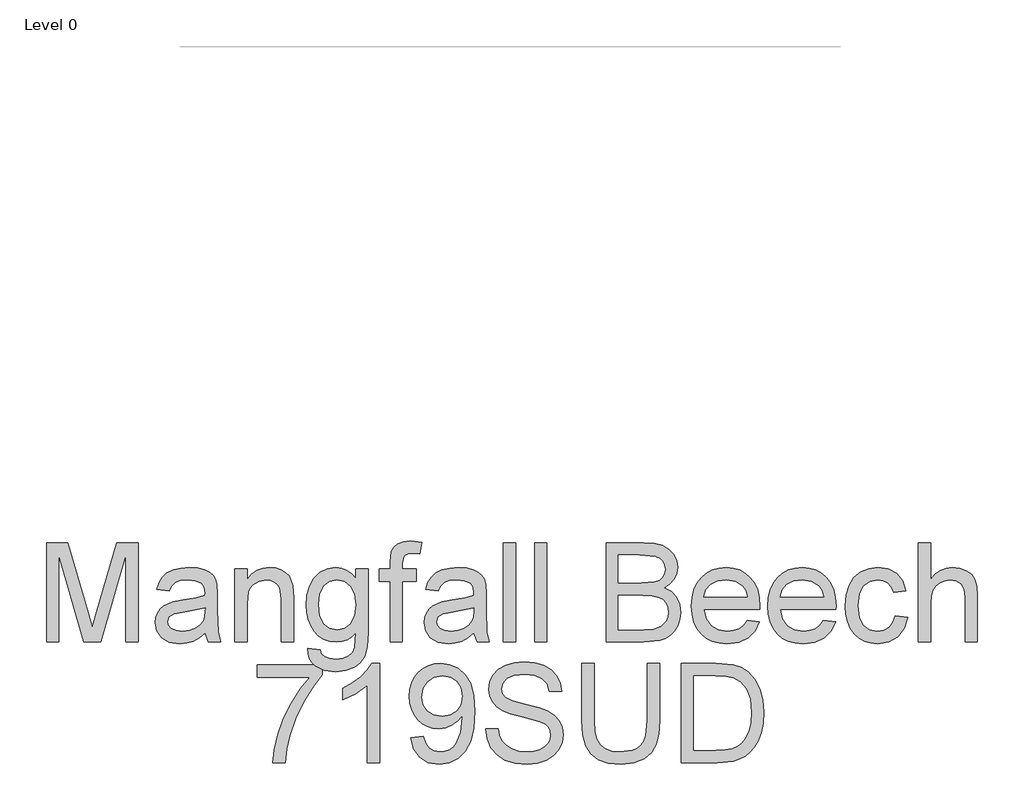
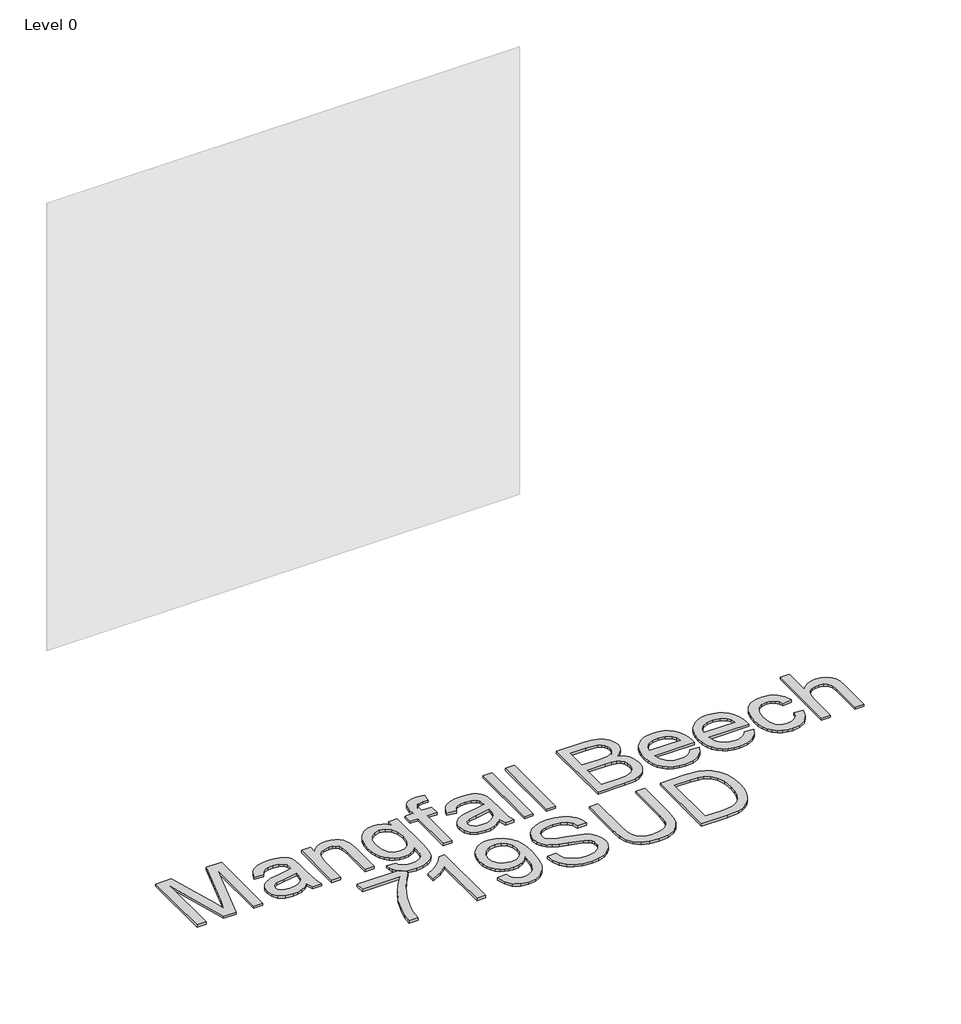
# One storey, part 12 of 43: 1 proxy.
"""IFC4 building model written with IfcOpenShell, lengths in millimetres."""

from ifc_helpers import new_model, si_unit, origin, origin_with_axes, place, context, project, spatial, polyline, outline, extrude, element, save

model = new_model("IFC4")

# Units and contexts
model_context = context("Model", 3, world=origin())
ifc_project = project(units=[si_unit("LENGTHUNIT", "METRE", prefix="MILLI")], contexts=[model_context])

# Site, building, storey
site = spatial("IfcSite", under=ifc_project)
building = spatial("IfcBuilding", under=site)
storey = spatial("IfcBuildingStorey", under=building, Name="Level 0", Elevation=0.0)

# Proxy
placement = place(None, origin())
element("IfcBuildingElementProxy", 1, Name="300mm Arial", ObjectType="300mm Arial", at=placement, inside=storey, context=model_context, shape_type="SweptSolid", body=[
    extrude(outline(polyline([(-5856.2615835, -12003.860494), (-5856.2615835, -11702.4915635), (-5791.4407759, -11702.4915635), (-5729.7837535, -11914.9066275), (-5717.3493421, -11959.2731962), (-5703.8848611, -11911.2278076), (-5643.2579083, -11702.4915635), (-5578.4371007, -11702.4915635), (-5578.4371007, -12003.860494), (-5616.108217, -12003.860494), (-5616.108217, -11740.1626798), (-5691.8183316, -12003.860494), (-5742.8803526, -12003.860494), (-5818.5904672, -11740.1626798), (-5818.5904672, -12003.860494), (-5856.2615835, -12003.860494)])), origin_with_axes(), (0.0, 0.0, 1.0), 10.0),
    extrude(outline(polyline([(-5375.9548506, -11975.6071568), (-5393.9534772, -11991.0398064), (-5412.4855327, -12001.1381672), (-5431.9740814, -12006.7115794), (-5452.8421876, -12008.5693835), (-5484.3236893, -12004.0996173), (-5507.5462403, -11990.6903186), (-5521.8660469, -11970.3280501), (-5526.6393158, -11944.9993748), (-5524.836694, -11929.3827841), (-5519.4288287, -11915.2009331), (-5511.0871045, -11903.0608273), (-5500.4829059, -11893.5694718), (-5474.1057669, -11881.2086368), (-5441.5114221, -11875.5432541), (-5402.9941772, -11869.5835657), (-5376.1755798, -11862.5938078), (-5375.9548506, -11854.2060983), (-5378.5484186, -11837.3938912), (-5386.3291228, -11826.3942195), (-5403.7299412, -11818.2272392), (-5427.9733647, -11815.5049125), (-5450.4141664, -11817.3167313), (-5466.0859394, -11822.7521878), (-5476.7729114, -11832.8045633), (-5484.25931, -11848.4671392), (-5521.9304263, -11843.7582497), (-5515.3913238, -11823.156858), (-5505.6332539, -11806.9700502), (-5491.7457086, -11794.590821), (-5472.8181799, -11785.4121652), (-5449.6692054, -11779.7283884), (-5423.1173224, -11777.8337961), (-5397.6506912, -11779.5076592), (-5377.4631668, -11784.5292485), (-5362.2420492, -11792.0800264), (-5351.6746389, -11801.3414556), (-5344.6664869, -11812.7917827), (-5340.1231442, -11826.9092543), (-5338.2837343, -11859.8714811), (-5338.2837343, -11906.7396473), (-5336.3707479, -11972.1858542), (-5328.8659552, -12003.860494), (-5366.5370715, -12003.860494), (-5375.9548506, -11975.6071568)]), holes=[polyline([(-5375.9548506, -11900.2649241), (-5436.7289562, -11911.8164188), (-5469.13936, -11917.9232599), (-5483.8178516, -11927.8560738), (-5488.9681995, -11942.3506244), (-5486.1630993, -11953.5526311), (-5477.7477986, -11962.7312869), (-5463.9062386, -11968.8565221), (-5444.8223601, -11970.8982672), (-5424.5888503, -11968.64499), (-5406.7097854, -11961.8851583), (-5392.2152348, -11951.9247533), (-5382.1352681, -11940.069756), (-5377.6655019, -11927.8560738), (-5376.1755798, -11910.933502), (-5375.9548506, -11900.2649241)])]), origin_with_axes(), (0.0, 0.0, 1.0), 10.0),
    extrude(outline(polyline([(-5286.4859493, -12003.860494), (-5286.4859493, -11782.5426857), (-5248.814833, -11782.5426857), (-5248.814833, -11813.4447733), (-5235.7274311, -11797.8649708), (-5220.0096728, -11786.7365404), (-5201.6615583, -11780.0594822), (-5180.6830875, -11777.8337961), (-5162.1142438, -11779.6272209), (-5145.1088986, -11785.0074951), (-5130.9270477, -11793.303234), (-5120.8286869, -11803.8430532), (-5109.5347097, -11831.5445674), (-5107.5481469, -11867.964885), (-5107.5481469, -12003.860494), (-5145.2192632, -12003.860494), (-5145.2192632, -11873.0416565), (-5149.5602707, -11839.7115477), (-5155.5659443, -11829.7879309), (-5164.9009499, -11822.0900002), (-5176.8663118, -11817.1511844), (-5190.7630542, -11815.5049125), (-5212.8267769, -11819.2021265), (-5231.6347439, -11830.2937687), (-5239.1510329, -11839.3482643), (-5244.5198107, -11851.7228949), (-5248.814833, -11886.4325611), (-5248.814833, -12003.860494), (-5286.4859493, -12003.860494)])), origin_with_axes(), (0.0, 0.0, 1.0), 10.0),
    extrude(outline(polyline([(-5065.1681411, -12022.6960521), (-5027.4970247, -12027.4049417), (-5023.3399582, -12039.1771655), (-5015.2833425, -12047.2705694), (-4999.4460226, -12053.5613515), (-4978.7158722, -12055.6582789), (-4956.6061643, -12053.28544), (-4940.1618391, -12046.1669234), (-4928.7574972, -12034.7625816), (-4921.7677393, -12019.532267), (-4919.1925654, -11975.6071568), (-4931.7281444, -11987.9679918), (-4945.7168572, -11996.7971597), (-4961.158704, -12002.0946604), (-4978.0536846, -12003.860494), (-4998.7079594, -12001.8049533), (-5016.8928262, -11995.6383314), (-5032.6082852, -11985.3606281), (-5045.8543363, -11970.9718436), (-5056.3642651, -11953.708981), (-5063.871357, -11934.8090435), (-5068.3756122, -11914.2720311), (-5069.8770306, -11892.0979438), (-5067.182295, -11861.6832999), (-5059.0980881, -11833.7150712), (-5045.9095186, -11810.0142737), (-5027.9016949, -11792.4019232), (-5005.6908195, -11781.4758279), (-4979.8930946, -11777.8337961), (-4962.2761455, -11779.8939353), (-4946.2870743, -11786.0743528), (-4931.9258809, -11796.3750487), (-4919.1925654, -11810.7960229), (-4919.1925654, -11782.5426857), (-4881.5214491, -11782.5426857), (-4881.5214491, -11973.620594), (-4884.096623, -12017.7388422), (-4891.8221449, -12046.7923228), (-4905.1302761, -12066.0601423), (-4924.4532779, -12080.8214074), (-4949.368086, -12090.2023982), (-4979.4516362, -12093.3293952), (-5014.5015933, -12088.9240083), (-5042.10194, -12075.7078476), (-5052.4969056, -12065.7865301), (-5059.806261, -12053.644125), (-5064.0300061, -12039.2806323), (-5065.1681411, -12022.6960521)]), holes=[polyline([(-5032.2059143, -11889.5227699), (-5028.1868035, -11924.0760863), (-5016.1294711, -11947.8320661), (-4998.0020858, -11961.6000498), (-4975.7728162, -11966.1893777), (-4953.7090936, -11961.6276409), (-4935.4897378, -11947.9424307), (-4923.2668585, -11924.4899535), (-4919.1925654, -11890.6264159), (-4923.3864201, -11857.9676917), (-4935.9679843, -11834.4508352), (-4954.4540546, -11820.2413931), (-4976.3614274, -11815.5049125), (-4997.8733271, -11820.1678167), (-5015.9087419, -11834.1565296), (-5028.1316212, -11857.3238983), (-5032.2059143, -11889.5227699)])]), origin_with_axes(), (0.0, 0.0, 1.0), 10.0),
    extrude(outline(polyline([(-4815.5969955, -12003.860494), (-4815.5969955, -11820.213802), (-4848.5592223, -11820.213802), (-4848.5592223, -11782.5426857), (-4815.5969955, -11782.5426857), (-4815.5969955, -11760.2490368), (-4811.62387, -11728.8319144), (-4804.0455009, -11716.3055325), (-4792.3468534, -11706.3911127), (-4775.9761046, -11699.9347837), (-4754.3814315, -11697.782674), (-4720.0212532, -11701.9029523), (-4725.5394831, -11737.2196239), (-4747.2445208, -11735.4537903), (-4761.5643275, -11737.0172888), (-4770.9729095, -11741.7077842), (-4776.1876368, -11750.6657108), (-4777.9258792, -11765.0315027), (-4777.9258792, -11782.5426857), (-4735.5458734, -11782.5426857), (-4735.5458734, -11820.213802), (-4777.9258792, -11820.213802), (-4777.9258792, -12003.860494), (-4815.5969955, -12003.860494)])), origin_with_axes(), (0.0, 0.0, 1.0), 10.0),
    extrude(outline(polyline([(-4561.3169605, -11975.6071568), (-4579.3155871, -11991.0398064), (-4597.8476426, -12001.1381672), (-4617.3361913, -12006.7115794), (-4638.2042974, -12008.5693835), (-4669.6857992, -12004.0996173), (-4692.9083501, -11990.6903186), (-4707.2281568, -11970.3280501), (-4712.0014257, -11944.9993748), (-4710.1988039, -11929.3827841), (-4704.7909386, -11915.2009331), (-4696.4492143, -11903.0608273), (-4685.8450158, -11893.5694718), (-4659.4678768, -11881.2086368), (-4626.873532, -11875.5432541), (-4588.3562871, -11869.5835657), (-4561.5376897, -11862.5938078), (-4561.3169605, -11854.2060983), (-4563.9105285, -11837.3938912), (-4571.6912327, -11826.3942195), (-4589.0920511, -11818.2272392), (-4613.3354746, -11815.5049125), (-4635.7762763, -11817.3167313), (-4651.4480493, -11822.7521878), (-4662.1350212, -11832.8045633), (-4669.6214198, -11848.4671392), (-4707.2925361, -11843.7582497), (-4700.7534337, -11823.156858), (-4690.9953638, -11806.9700502), (-4677.1078184, -11794.590821), (-4658.1802898, -11785.4121652), (-4635.0313152, -11779.7283884), (-4608.4794322, -11777.8337961), (-4583.0128011, -11779.5076592), (-4562.8252766, -11784.5292485), (-4547.6041591, -11792.0800264), (-4537.0367488, -11801.3414556), (-4530.0285968, -11812.7917827), (-4525.4852541, -11826.9092543), (-4523.6458442, -11859.8714811), (-4523.6458442, -11906.7396473), (-4521.7328578, -11972.1858542), (-4514.2280651, -12003.860494), (-4551.8991814, -12003.860494), (-4561.3169605, -11975.6071568)]), holes=[polyline([(-4561.3169605, -11900.2649241), (-4622.0910661, -11911.8164188), (-4654.5014698, -11917.9232599), (-4669.1799614, -11927.8560738), (-4674.3303094, -11942.3506244), (-4671.5252092, -11953.5526311), (-4663.1099085, -11962.7312869), (-4649.2683485, -11968.8565221), (-4630.18447, -11970.8982672), (-4609.9509602, -11968.64499), (-4592.0718953, -11961.8851583), (-4577.5773446, -11951.9247533), (-4567.497378, -11940.069756), (-4563.0276117, -11927.8560738), (-4561.5376897, -11910.933502), (-4561.3169605, -11900.2649241)])]), origin_with_axes(), (0.0, 0.0, 1.0), 10.0),
    extrude(outline(polyline([(-4471.8480592, -12003.860494), (-4471.8480592, -11702.4915635), (-4434.1769429, -11702.4915635), (-4434.1769429, -12003.860494), (-4471.8480592, -12003.860494)])), origin_with_axes(), (0.0, 0.0, 1.0), 10.0),
    extrude(outline(polyline([(-4377.6702685, -12003.860494), (-4377.6702685, -11702.4915635), (-4339.9991522, -11702.4915635), (-4339.9991522, -12003.860494), (-4377.6702685, -12003.860494)])), origin_with_axes(), (0.0, 0.0, 1.0), 10.0),
    extrude(outline(polyline([(-4161.0613497, -12003.860494), (-4161.0613497, -11702.4915635), (-4046.061438, -11702.4915635), (-4014.4327835, -11704.7080526), (-3989.7387046, -11711.3575196), (-3970.8111759, -11722.6055116), (-3956.4821722, -11738.6175755), (-3947.4598663, -11757.4531336), (-3944.4524309, -11777.1716086), (-3946.9816197, -11795.317388), (-3954.5691858, -11812.3779155), (-3967.2703117, -11827.3047274), (-3985.1401796, -11839.0493601), (-3963.7938268, -11850.1961846), (-3948.0208863, -11867.1555446), (-3938.2812105, -11888.8054), (-3935.0346519, -11914.0237108), (-3937.2511409, -11935.0389697), (-3943.900608, -11954.5275184), (-3953.8242248, -11971.1006023), (-3965.8631631, -11983.3694669), (-3980.606034, -11992.253817), (-3998.6414488, -11998.6733578), (-4046.9443548, -12003.860494), (-4161.0613497, -12003.860494)]), holes=[polyline([(-4123.3902334, -11824.9226915), (-4054.5963003, -11824.9226915), (-4014.4235864, -11821.68533), (-4000.3612972, -11816.1027207), (-3990.2537393, -11807.7426024), (-3984.1560953, -11796.7337336), (-3982.1235473, -11783.2048733), (-3984.0181395, -11770.071486), (-3989.7019164, -11758.630356), (-3998.9173603, -11749.7000206), (-4011.4069541, -11744.0990172), (-4059.8202246, -11740.1626798), (-4123.3902334, -11740.1626798), (-4123.3902334, -11824.9226915)]), polyline([(-4123.3902334, -11966.1893777), (-4046.1350144, -11966.1893777), (-4018.1759828, -11964.7178497), (-3994.5211705, -11956.5140812), (-3978.8493975, -11939.7754504), (-3974.2416755, -11927.9480443), (-3972.7057682, -11914.3915928), (-3974.50839, -11898.6462434), (-3979.9162553, -11885.1081859), (-3989.3616255, -11874.5223815), (-4003.276762, -11867.6337912), (-4022.9860399, -11863.8538037), (-4049.8138344, -11862.5938078), (-4123.3902334, -11862.5938078), (-4123.3902334, -11966.1893777)])]), origin_with_axes(), (0.0, 0.0, 1.0), 10.0),
    extrude(outline(polyline([(-3732.9938601, -11937.9360404), (-3696.0585078, -11942.64493), (-3709.366639, -11970.4752029), (-3730.6026271, -11991.2789297), (-3759.2882257, -12004.2467701), (-3794.9451881, -12008.5693835), (-3818.3194904, -12006.7046817), (-3839.1462098, -12001.1105761), (-3857.4253465, -11991.7870668), (-3873.1569003, -11978.7341537), (-3885.8074424, -11962.3151204), (-3894.8435439, -11942.8932503), (-3900.2652048, -11920.4685435), (-3902.0724251, -11895.0409998), (-3900.2468107, -11868.7512327), (-3894.7699675, -11845.5792656), (-3885.6418955, -11825.5250983), (-3872.8625947, -11808.5887309), (-3857.1724276, -11795.133447), (-3839.3117567, -11785.5225298), (-3819.2805821, -11779.7559796), (-3797.0789037, -11777.8337961), (-3775.5922959, -11779.751381), (-3756.1612288, -11785.5041357), (-3738.7857023, -11795.0920602), (-3723.4657164, -11808.5151545), (-3710.9600279, -11825.4147337), (-3702.0273932, -11845.4321128), (-3696.6678124, -11868.5672917), (-3694.8812854, -11894.8202706), (-3695.1020146, -11904.9738137), (-3864.4013088, -11904.9738137), (-3857.8806004, -11933.1719686), (-3842.7330593, -11953.902119), (-3820.8716717, -11966.6492302), (-3794.2094241, -11970.8982672), (-3774.1598554, -11968.9300985), (-3757.2740718, -11963.0255925), (-3743.5520734, -11952.8168672), (-3732.9938601, -11937.9360404)]), holes=[polyline([(-3864.4013088, -11867.3026974), (-3732.5524017, -11867.3026974), (-3737.6475674, -11847.4002814), (-3747.6355635, -11833.1632482), (-3769.5981186, -11819.9194964), (-3797.2260565, -11815.5049125), (-3822.6191112, -11819.0273826), (-3843.6159761, -11829.5947929), (-3858.2116942, -11846.0667092), (-3864.4013088, -11867.3026974)])]), origin_with_axes(), (0.0, 0.0, 1.0), 10.0),
    extrude(outline(polyline([(-3502.2582727, -11937.9360404), (-3465.3229204, -11942.64493), (-3478.6310516, -11970.4752029), (-3499.8670398, -11991.2789297), (-3528.5526383, -12004.2467701), (-3564.2096007, -12008.5693835), (-3587.583903, -12006.7046817), (-3608.4106224, -12001.1105761), (-3626.6897591, -11991.7870668), (-3642.4213129, -11978.7341537), (-3655.071855, -11962.3151204), (-3664.1079565, -11942.8932503), (-3669.5296174, -11920.4685435), (-3671.3368377, -11895.0409998), (-3669.5112233, -11868.7512327), (-3664.0343801, -11845.5792656), (-3654.9063081, -11825.5250983), (-3642.1270073, -11808.5887309), (-3626.4368402, -11795.133447), (-3608.5761693, -11785.5225298), (-3588.5449947, -11779.7559796), (-3566.3433163, -11777.8337961), (-3544.8567085, -11779.751381), (-3525.4256414, -11785.5041357), (-3508.0501149, -11795.0920602), (-3492.7301291, -11808.5151545), (-3480.2244405, -11825.4147337), (-3471.2918058, -11845.4321128), (-3465.932225, -11868.5672917), (-3464.145698, -11894.8202706), (-3464.3664272, -11904.9738137), (-3633.6657214, -11904.9738137), (-3627.1450131, -11933.1719686), (-3611.9974719, -11953.902119), (-3590.1360843, -11966.6492302), (-3563.4738367, -11970.8982672), (-3543.424268, -11968.9300985), (-3526.5384844, -11963.0255925), (-3512.816486, -11952.8168672), (-3502.2582727, -11937.9360404)]), holes=[polyline([(-3633.6657214, -11867.3026974), (-3501.8168143, -11867.3026974), (-3506.91198, -11847.4002814), (-3516.8999761, -11833.1632482), (-3538.8625313, -11819.9194964), (-3566.4904691, -11815.5049125), (-3591.8835238, -11819.0273826), (-3612.8803887, -11829.5947929), (-3627.4761068, -11846.0667092), (-3633.6657214, -11867.3026974)])]), origin_with_axes(), (0.0, 0.0, 1.0), 10.0),
    extrude(outline(polyline([(-3285.2078956, -11923.8093718), (-3247.5367793, -11928.5182614), (-3258.0398102, -11962.0231141), (-3277.7766793, -11987.3425924), (-3304.8895823, -12003.2626857), (-3337.5207153, -12008.5693835), (-3358.6486381, -12006.7184772), (-3377.5922616, -12001.1657584), (-3394.3515858, -11991.9112269), (-3408.9266106, -11978.9548829), (-3420.7241263, -11962.5404481), (-3429.1509233, -11942.9116444), (-3434.2070014, -11920.0684718), (-3435.8923608, -11894.0109302), (-3433.0136842, -11860.4876834), (-3424.3776544, -11831.4342028), (-3409.8463156, -11807.9725286), (-3389.281712, -11791.2247008), (-3364.6796036, -11781.1815223), (-3338.0357501, -11777.8337961), (-3306.2047605, -11782.4323211), (-3280.7565234, -11796.2278959), (-3262.5003794, -11818.4847566), (-3252.2456688, -11848.4671392), (-3289.9167851, -11853.1760288), (-3296.7501932, -11836.7409006), (-3307.3911799, -11824.9594797), (-3321.2511341, -11817.8685543), (-3337.7414445, -11815.5049125), (-3362.0860355, -11820.1586197), (-3381.4090373, -11834.1197414), (-3394.0181927, -11858.1424357), (-3398.2212445, -11892.9808606), (-3394.1101632, -11928.2883351), (-3381.7769193, -11952.3938029), (-3362.8034054, -11966.2721511), (-3338.7715141, -11970.8982672), (-3319.2645713, -11968.0103936), (-3303.2709016, -11959.3467726), (-3291.6366335, -11944.6866751), (-3285.2078956, -11923.8093718)])), origin_with_axes(), (0.0, 0.0, 1.0), 10.0),
    extrude(outline(polyline([(-3214.5745525, -12003.860494), (-3214.5745525, -11702.4915635), (-3176.9034362, -11702.4915635), (-3176.9034362, -11813.2976205), (-3163.0664747, -11797.7821973), (-3147.5280589, -11786.6997522), (-3130.2881889, -11780.0502852), (-3111.3468647, -11777.8337961), (-3088.5933633, -11780.2526203), (-3069.0404352, -11787.5090926), (-3053.6445737, -11799.0329961), (-3043.362272, -11814.2541137), (-3037.5681305, -11835.1682051), (-3035.6367501, -11863.7710302), (-3035.6367501, -12003.860494), (-3073.3078664, -12003.860494), (-3073.3078664, -11867.6705794), (-3076.3061046, -11844.0893435), (-3085.3008194, -11827.9393239), (-3099.79537, -11818.6135153), (-3119.2931158, -11815.5049125), (-3135.2132091, -11817.6018398), (-3150.1584152, -11823.8926219), (-3162.5376443, -11833.7702535), (-3170.7598069, -11846.6277292), (-3175.3675289, -11863.7158479), (-3176.9034362, -11886.2854083), (-3176.9034362, -12003.860494), (-3214.5745525, -12003.860494)])), origin_with_axes(), (0.0, 0.0, 1.0), 10.0),
    extrude(outline(polyline([(-5218.207051, -12110.7960229), (-5218.207051, -12073.1249066), (-5020.4336904, -12073.1249066), (-5020.4336904, -12103.5855358), (-5048.6226483, -12139.2608923), (-5076.5356947, -12184.6299393), (-5101.1561972, -12235.5540045), (-5119.4675235, -12287.8944154), (-5128.4438442, -12327.0554538), (-5133.4470394, -12369.7849475), (-5171.1181557, -12369.7849475), (-5167.0438626, -12330.9550029), (-5156.1453585, -12284.8042066), (-5138.7169489, -12235.8850983), (-5115.0529396, -12188.7502177), (-5087.4250018, -12146.1402856), (-5058.1048067, -12110.7960229), (-5218.207051, -12110.7960229)])), origin_with_axes(), (0.0, 0.0, 1.0), 10.0),
    extrude(outline(polyline([(-4846.2047775, -12369.7849475), (-4883.8758938, -12369.7849475), (-4883.8758938, -12134.9290818), (-4919.5604474, -12160.3497277), (-4959.2181264, -12179.3692268), (-4959.2181264, -12143.7582497), (-4929.631217, -12127.6634124), (-4903.999039, -12108.5151545), (-4883.7931204, -12088.1528861), (-4870.4849892, -12068.4160171), (-4846.2047775, -12068.4160171), (-4846.2047775, -12369.7849475)])), origin_with_axes(), (0.0, 0.0, 1.0), 10.0),
    extrude(outline(polyline([(-4752.0269868, -12294.4427149), (-4714.3558705, -12289.7338254), (-4707.9179355, -12311.1169663), (-4697.4332987, -12325.6758963), (-4683.1594773, -12334.0360146), (-4665.3539887, -12336.8227207), (-4649.3787131, -12335.029296), (-4634.8565713, -12329.6490218), (-4622.7900419, -12321.2705094), (-4614.1816032, -12310.4823699), (-4601.8575563, -12277.7408723), (-4596.4129028, -12234.0364913), (-4596.633632, -12226.6788514), (-4609.6842458, -12242.6081418), (-4626.7631674, -12255.2264942), (-4646.6379922, -12263.4486568), (-4668.0763155, -12266.1893777), (-4685.9714753, -12264.5155146), (-4702.4272968, -12259.4939254), (-4717.4437799, -12251.12461), (-4731.0209248, -12239.4075684), (-4742.2712161, -12224.9544045), (-4750.3071384, -12208.3767221), (-4755.1286918, -12189.6745212), (-4756.7358763, -12168.8478018), (-4755.0505169, -12147.326705), (-4749.9944387, -12128.0129003), (-4741.5676418, -12110.9063875), (-4729.770126, -12096.0071667), (-4715.4342245, -12083.9360387), (-4699.3922703, -12075.3138045), (-4681.6442633, -12070.1404639), (-4662.1902035, -12068.4160171), (-4634.0932162, -12072.3523544), (-4608.5162204, -12084.1613665), (-4587.1238824, -12103.254442), (-4571.5808681, -12129.0429699), (-4562.1171038, -12164.6907352), (-4558.9625157, -12213.3615232), (-4562.1079067, -12264.96617), (-4571.5440799, -12304.8537754), (-4587.1882618, -12334.8269609), (-4608.9576788, -12356.6883485), (-4635.914232, -12370.0424649), (-4667.1198223, -12374.4938371), (-4699.3278909, -12369.2423216), (-4725.0244483, -12353.4877751), (-4742.9954838, -12328.2234791), (-4752.0269868, -12294.4427149)]), holes=[polyline([(-4596.633632, -12167.964885), (-4600.698728, -12142.4338745), (-4612.8940162, -12122.788976), (-4631.8215448, -12110.262594), (-4656.0833624, -12106.0871334), (-4681.2464909, -12110.5844908), (-4701.4064242, -12124.0765629), (-4714.650176, -12144.7239399), (-4719.06476, -12170.6872117), (-4714.8892993, -12193.964945), (-4702.3629174, -12212.4418182), (-4682.6996248, -12224.4991506), (-4657.113432, -12228.5182614), (-4633.0447525, -12224.4991506), (-4613.6665684, -12212.4418182), (-4600.8918661, -12193.2843633), (-4596.633632, -12167.964885)])]), origin_with_axes(), (0.0, 0.0, 1.0), 10.0),
    extrude(outline(polyline([(-4526.0002889, -12266.1893777), (-4488.3291726, -12266.1893777), (-4484.0065592, -12287.0942721), (-4476.1890668, -12303.8972822), (-4463.9937786, -12317.2330045), (-4446.537778, -12327.7360355), (-4425.2006222, -12334.5510494), (-4401.361869, -12336.8227207), (-4380.3742011, -12335.1028724), (-4361.9984955, -12329.9433274), (-4347.1084717, -12321.7763471), (-4336.5778496, -12311.0341929), (-4330.3146586, -12298.700949), (-4328.2269283, -12285.7606998), (-4329.7904268, -12273.1515444), (-4334.4809222, -12262.2530403), (-4344.0090659, -12252.9548229), (-4360.0855091, -12245.1465276), (-4414.9367146, -12230.7623415), (-4450.9431649, -12221.2433949), (-4473.9817748, -12212.1843008), (-4492.7345595, -12199.510766), (-4506.0242966, -12184.1516928), (-4513.9429565, -12166.4381747), (-4516.5825098, -12146.7013056), (-4513.3175571, -12124.637583), (-4503.522699, -12104.0637824), (-4487.4554529, -12086.6261758), (-4465.3733361, -12073.9710352), (-4438.8674384, -12066.2731044), (-4409.5288492, -12063.7071275), (-4377.7438449, -12066.3926661), (-4349.931966, -12074.4492818), (-4327.0864941, -12087.7114277), (-4310.2007105, -12106.013557), (-4299.5137386, -12128.2152354), (-4295.2647015, -12153.1760288), (-4332.9358179, -12153.1760288), (-4339.8519994, -12130.6984389), (-4354.2729736, -12114.4748429), (-4376.8057458, -12104.6523936), (-4408.0573213, -12101.3782438), (-4440.0446607, -12104.6156054), (-4461.9888218, -12114.3276901), (-4474.6807506, -12128.6199056), (-4478.9113935, -12145.5976597), (-4475.9131553, -12160.0738162), (-4466.9184405, -12171.7172813), (-4445.6548612, -12182.1283418), (-4405.4085709, -12192.7601314), (-4363.8746936, -12202.8584922), (-4338.7483534, -12211.669266), (-4317.2732419, -12225.3360821), (-4302.2912477, -12242.2034716), (-4293.4896709, -12262.0874934), (-4290.555812, -12284.8042066), (-4293.9311293, -12308.0267576), (-4304.0570812, -12329.869751), (-4320.5198005, -12348.668521), (-4342.9054199, -12362.7584014), (-4369.8251849, -12371.5599781), (-4399.890341, -12374.4938371), (-4436.7981021, -12371.3300519), (-4467.1759579, -12361.8386964), (-4491.3733961, -12345.9829824), (-4509.7399047, -12323.7261217), (-4521.5305227, -12296.6132187), (-4526.0002889, -12266.1893777)])), origin_with_axes(), (0.0, 0.0, 1.0), 10.0),
    extrude(outline(polyline([(-4036.2757769, -12068.4160171), (-3998.6046606, -12068.4160171), (-3998.6046606, -12242.277048), (-4001.1614405, -12282.9923878), (-4008.8317801, -12314.3451308), (-4023.1607838, -12338.533372), (-4045.693556, -12357.7552063), (-4076.485279, -12370.3091794), (-4115.5911351, -12374.4938371), (-4153.8416655, -12370.8518053), (-4184.4218564, -12359.92571), (-4207.3409047, -12342.0926303), (-4222.6080075, -12317.7296452), (-4231.188855, -12285.052527), (-4234.0491375, -12242.277048), (-4234.0491375, -12068.4160171), (-4196.3780212, -12068.4160171), (-4196.3780212, -12240.9526728), (-4194.5202172, -12274.8070134), (-4188.9468049, -12298.3790523), (-4178.8484442, -12314.7038158), (-4163.4157945, -12326.8163305), (-4143.2926493, -12334.3211232), (-4119.1228023, -12336.8227207), (-4080.8078925, -12331.8747079), (-4066.4650932, -12325.6896919), (-4055.3320643, -12317.0306694), (-4046.9949386, -12304.8537754), (-4041.0398488, -12288.1151446), (-4036.2757769, -12240.9526728), (-4036.2757769, -12068.4160171)])), origin_with_axes(), (0.0, 0.0, 1.0), 10.0),
    extrude(outline(polyline([(-3932.6802071, -12369.7849475), (-3932.6802071, -12068.4160171), (-3828.7167553, -12068.4160171), (-3774.9324076, -12072.7570246), (-3750.9097133, -12081.12634), (-3730.6394153, -12094.3149095), (-3709.7989003, -12117.270746), (-3694.9548618, -12145.8183889), (-3686.0705116, -12179.406015), (-3683.1090616, -12217.4818015), (-3685.1140184, -12249.8278259), (-3691.1288891, -12278.2926953), (-3700.2891507, -12302.5269217), (-3711.7302808, -12322.1810173), (-3724.9004562, -12337.6964405), (-3739.247854, -12349.5146496), (-3755.7197704, -12358.2794381), (-3775.2635014, -12364.6345996), (-3823.7135601, -12369.7849475), (-3932.6802071, -12369.7849475)]), holes=[polyline([(-3895.0090908, -12332.1138312), (-3828.3488733, -12332.1138312), (-3800.7761177, -12330.7526678), (-3779.8620263, -12326.6691777), (-3764.0798887, -12320.1024841), (-3751.9029947, -12311.2917103), (-3738.8155927, -12294.9853408), (-3728.9839464, -12273.8781114), (-3722.83112, -12247.8780514), (-3720.7801779, -12216.8931903), (-3724.7992887, -12175.8375597), (-3736.8566211, -12145.5240833), (-3754.6713067, -12124.7019623), (-3775.9624772, -12112.1203981), (-3797.6307267, -12107.5954496), (-3829.3789429, -12106.0871334), (-3895.0090908, -12106.0871334), (-3895.0090908, -12332.1138312)])]), origin_with_axes(), (0.0, 0.0, 1.0), 10.0),
])

save(model, "model.ifc")
